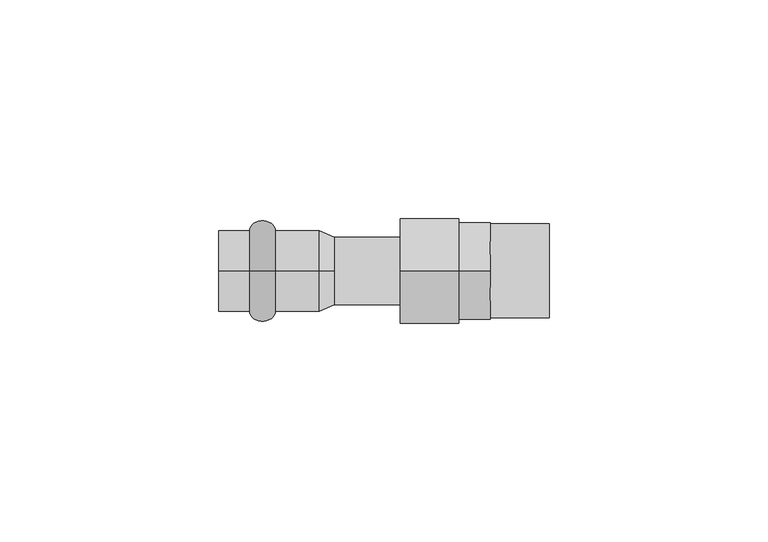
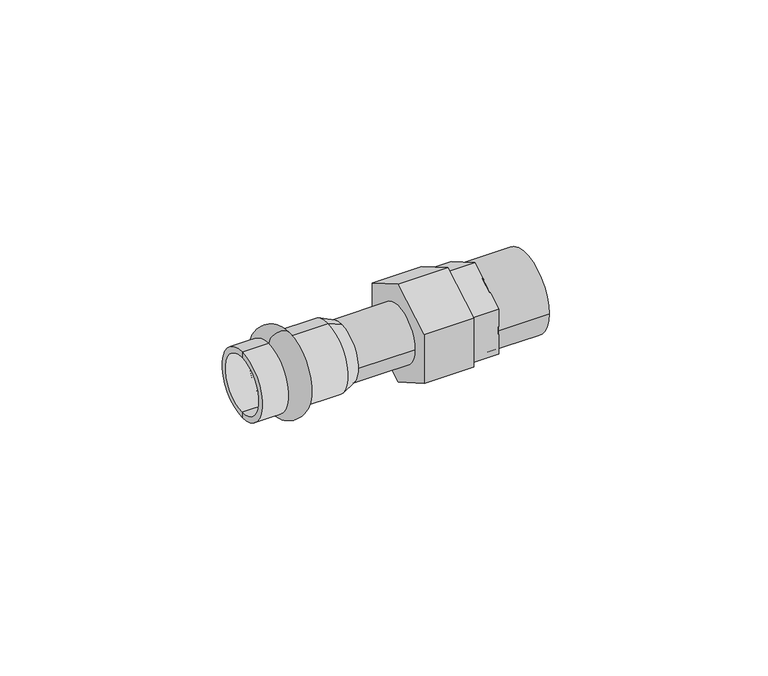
"""IFC4 building model written with IfcOpenShell, lengths in millimetres: pipe fitting geometry, РЕХАУ_Пресс Муфта с накидной гайкой и ниппелем НР : ЗАГРУЗИТЕ ТИПОРАЗМЕРЫ ЧЕРЕЗ ВКЛАДКУ «ВСТАВИТЬ» → ЗАГРУЗИТЬ СЕМЕЙСТВО."""

from ifc_helpers import new_model, si_unit, point, frame, origin, origin_2d, place, context, project, spatial, polyline, circle_curve, ellipse_curve, trimmed, segment, composite_curve, outline, extrude, source, transform, mapped, element, save
from ifc_brep_helpers import plane_surface, cylinder_surface, revolved_surface, advanced_brep


def pipe_fitting_a0121306(model_context):
    return source(origin(), model_context, "Body", "SolidModel", [
        advanced_brep(
        [(-15.9, 0.0, 9.25), (-15.9, 0.0, -9.25), (-10.0, 0.0, -9.25), (-10.0, 0.0, 9.25)],
        [
            (0, 1, circle_curve(frame((-15.9, 0.0, 0.0), z_axis=(-1.0, 0.0, 0.0), x_axis=(0.0, 0.0, -1.0)), 9.25)),
            (1, 2),
            (2, 3, circle_curve(frame((-10.0, 0.0, 0.0), z_axis=(1.0, 0.0, 0.0), x_axis=(0.0, 0.0, -1.0)), 9.25)),
            (3, 0),
            (1, 0, circle_curve(frame((-15.9, 0.0, 0.0), z_axis=(-1.0, 0.0, 0.0), x_axis=(0.0, 0.0, -1.0)), 9.25)),
            (3, 2, circle_curve(frame((-10.0, 0.0, 0.0), z_axis=(1.0, 0.0, 0.0), x_axis=(0.0, 0.0, -1.0)), 9.25)),
            (2, 1, ellipse_curve(frame((-12.95, 0.0, -9.25), z_axis=(0.0, 1.0, 0.0), x_axis=(-1.0, 0.0, 0.0)), 2.95, 2.3)),
            (0, 3, ellipse_curve(frame((-12.95, 0.0, 9.25), z_axis=(0.0, 1.0, 0.0), x_axis=(-1.0, 0.0, 0.0)), 2.95, 2.3)),
        ],
        [
            revolved_surface(polyline([(-10.0, 0.0, -9.25), (-15.899999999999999, 0.0, -9.25)]), (3.0, 0.0, 0.0), (1.0, 0.0, 0.0)),
            revolved_surface(trimmed(ellipse_curve(frame((-12.95, 0.0, -9.25), z_axis=(0.0, -1.0, 0.0), x_axis=(-1.0, 0.0, 0.0)), 2.95, 2.3), [point((-15.9, 0.0, -9.25))], [point((-10.0, 0.0, -9.25))], True, "CARTESIAN"), (3.0, 0.0, 0.0), (1.0, 0.0, 0.0)),
        ],
        [
            (0, [[1, 2, 3, 4]]),
            (0, [[5, -4, 6, -2]]),
            (1, [[-3, 7, -1, 8]]),
            (1, [[-6, -8, -5, -7]]),
        ],
    ),
        advanced_brep(
        [(3.5337785, 0.0, 7.75), (3.5337785, 0.0, -7.75), (0.0, 0.0, -9.25), (0.0, 0.0, 9.25), (-23.0, 0.0, 7.75), (-23.0, 0.0, -7.75), (-23.0, 0.0, 9.25), (-23.0, 0.0, -9.25)],
        [
            (0, 1, circle_curve(frame((3.5337785, 0.0, 0.0), z_axis=(-1.0, 0.0, 0.0), x_axis=(0.0, 0.0, -1.0)), 7.75)),
            (1, 2),
            (2, 3, circle_curve(frame((0.0, 0.0, 0.0), z_axis=(1.0, 0.0, 0.0), x_axis=(0.0, 0.0, -1.0)), 9.25)),
            (3, 0),
            (1, 0, circle_curve(frame((3.5337785, 0.0, 0.0), z_axis=(-1.0, 0.0, 0.0), x_axis=(0.0, 0.0, -1.0)), 7.75)),
            (3, 2, circle_curve(frame((0.0, 0.0, 0.0), z_axis=(1.0, 0.0, 0.0), x_axis=(0.0, 0.0, -1.0)), 9.25)),
            (4, 5, circle_curve(frame((-23.0, 0.0, 0.0), z_axis=(-1.0, 0.0, 0.0), x_axis=(0.0, 0.0, -1.0)), 7.75)),
            (5, 1),
            (0, 4),
            (5, 4, circle_curve(frame((-23.0, 0.0, 0.0), z_axis=(-1.0, 0.0, 0.0), x_axis=(0.0, 0.0, -1.0)), 7.75)),
            (6, 7, circle_curve(frame((-23.0, 0.0, 0.0), z_axis=(-1.0, 0.0, 0.0), x_axis=(0.0, 0.0, -1.0)), 9.25)),
            (7, 5),
            (4, 6),
            (7, 6, circle_curve(frame((-23.0, 0.0, 0.0), z_axis=(-1.0, 0.0, 0.0), x_axis=(0.0, 0.0, -1.0)), 9.25)),
            (2, 7),
            (6, 3),
        ],
        [
            revolved_surface(polyline([(0.0, 0.0, -9.25), (3.5337785, 0.0, -7.75)]), (3.0, 0.0, 0.0), (1.0, 0.0, 0.0)),
            revolved_surface(polyline([(3.5337785, 0.0, -7.75), (-23.0, 0.0, -7.75)]), (3.0, 0.0, 0.0), (1.0, 0.0, 0.0)),
            plane_surface(frame((-23.0, 0.0, 0.0), z_axis=(-1.0, 0.0, 0.0), x_axis=(0.0, 0.0, -1.0))),
            cylinder_surface(frame((3.0, 0.0, 0.0), z_axis=(1.0, 0.0, 0.0), x_axis=(0.0, 0.0, -1.0)), 9.25),
        ],
        [
            (0, [[1, 2, 3, 4]]),
            (0, [[5, -4, 6, -2]]),
            (1, [[7, 8, -1, 9]]),
            (1, [[10, -9, -5, -8]]),
            (2, [[11, 12, -7, 13]]),
            (2, [[14, -13, -10, -12]]),
            (3, [[-3, 15, -11, 16]]),
            (3, [[-6, -16, -14, -15]]),
        ],
    ),
        extrude(outline(composite_curve([segment(trimmed(circle_curve(origin_2d(), 10.75), [point((-10.75, 0.0))], [point((10.75, 0.0))], False, "CARTESIAN"), True, "CONTINUOUS"), segment(trimmed(circle_curve(origin_2d(), 10.75), [point((10.75, 0.0))], [point((-10.75, 0.0))], False, "CARTESIAN"), True, "CONTINUOUS")], self_intersect=False)), frame((39.1337785, 0.0, 0.0), z_axis=(1.0, 0.0, 0.0), x_axis=(0.0, 1.0, 0.0)), (0.0, 0.0, 1.0), 13.6),
        extrude(outline(polyline([(-11.0, 6.350853), (0.0, 12.7017059), (11.0, 6.350853), (11.0, -6.350853), (0.0, -12.7017059), (-11.0, -6.350853), (-11.0, 6.350853)]), holes=[polyline([(0.0, -1.1547005), (1.0, -0.5773503), (1.0, 0.5773503), (0.0, 1.1547005), (-1.0, 0.5773503), (-1.0, -0.5773503), (0.0, -1.1547005)])]), frame((31.9337785, 0.0, 0.0), z_axis=(1.0, 0.0, 0.0), x_axis=(0.0, 1.0, 0.0)), (0.0, 0.0, 1.0), 7.2),
        extrude(outline(composite_curve([segment(trimmed(circle_curve(origin_2d(), 7.75), [point((-7.75, 0.0))], [point((7.75, 0.0))], False, "CARTESIAN"), True, "CONTINUOUS"), segment(trimmed(circle_curve(origin_2d(), 7.75), [point((7.75, 0.0))], [point((-7.75, 0.0))], False, "CARTESIAN"), True, "CONTINUOUS")], self_intersect=False)), frame((3.5337785, 0.0, 0.0), z_axis=(1.0, 0.0, 0.0), x_axis=(0.0, 1.0, 0.0)), (0.0, 0.0, 1.0), 15.1),
        advanced_brep(
        [(18.6337785, 0.0, -2.3094011), (18.6337785, -2.0, -1.1547005), (24.6337785, -2.0, -1.1547005), (24.6337785, 0.0, -2.3094011), (31.9337785, -12.0, -6.9282032), (18.6337785, -12.0, -6.9282032), (18.6337785, 0.0, -13.8564065), (31.9337785, 0.0, -13.8564065), (18.6337785, 2.0, -1.1547005), (24.6337785, 2.0, -1.1547005), (18.6337785, 12.0, -6.9282032), (31.9337785, 12.0, -6.9282032), (18.6337785, 0.0, 2.3094011), (18.6337785, 2.0, 1.1547005), (24.6337785, 2.0, 1.1547005), (24.6337785, 0.0, 2.3094011), (31.9337785, 12.0, 6.9282032), (18.6337785, 12.0, 6.9282032), (18.6337785, 0.0, 13.8564065), (31.9337785, 0.0, 13.8564065), (18.6337785, -2.0, 1.1547005), (24.6337785, -2.0, 1.1547005), (18.6337785, -12.0, 6.9282032), (31.9337785, -12.0, 6.9282032), (31.9337785, -10.75, 0.0), (31.9337785, 10.75, 0.0), (24.6337785, -10.75, 0.0), (24.6337785, 10.75, 0.0)],
        [
            (0, 1),
            (1, 2),
            (2, 3),
            (3, 0),
            (4, 5),
            (5, 6),
            (6, 7),
            (7, 4),
            (8, 0),
            (3, 9),
            (9, 8),
            (6, 10),
            (10, 11),
            (11, 7),
            (12, 13),
            (13, 14),
            (14, 15),
            (15, 12),
            (16, 17),
            (17, 18),
            (18, 19),
            (19, 16),
            (20, 12),
            (15, 21),
            (21, 20),
            (18, 22),
            (22, 23),
            (23, 19),
            (13, 8),
            (9, 14),
            (10, 17),
            (16, 11),
            (23, 4),
            (24, 25, circle_curve(frame((31.9337785, 0.0, 0.0), z_axis=(-1.0, 0.0, 0.0), x_axis=(0.0, 1.0, 0.0)), 10.75)),
            (25, 24, circle_curve(frame((31.9337785, 0.0, 0.0), z_axis=(-1.0, 0.0, 0.0), x_axis=(0.0, 1.0, 0.0)), 10.75)),
            (1, 20),
            (21, 2),
            (5, 22),
            (26, 27, circle_curve(frame((24.6337785, 0.0, 0.0), z_axis=(1.0, 0.0, 0.0), x_axis=(0.0, 1.0, 0.0)), 10.75)),
            (27, 26, circle_curve(frame((24.6337785, 0.0, 0.0), z_axis=(1.0, 0.0, 0.0), x_axis=(0.0, 1.0, 0.0)), 10.75)),
            (27, 25),
            (24, 26),
        ],
        [
            plane_surface(frame((31.9337785, -2.0, -1.1547005), z_axis=(0.0, 0.500000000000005, 0.8660254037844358), x_axis=(0.0, 0.8660254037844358, -0.500000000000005))),
            plane_surface(frame((18.6337785, -12.0, -6.9282032), z_axis=(0.0, -0.5000000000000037, -0.8660254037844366), x_axis=(0.0, 0.8660254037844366, -0.5000000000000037))),
            plane_surface(frame((31.9337785, 0.0, -2.3094011), z_axis=(0.0, -0.49999999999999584, 0.866025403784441), x_axis=(0.0, 0.866025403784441, 0.49999999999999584))),
            plane_surface(frame((18.6337785, 0.0, -13.8564065), z_axis=(0.0, 0.49999999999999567, -0.8660254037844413), x_axis=(0.0, 0.8660254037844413, 0.49999999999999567))),
            plane_surface(frame((31.9337785, 2.0, 1.1547005), z_axis=(0.0, -0.5000000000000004, -0.8660254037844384), x_axis=(0.0, -0.8660254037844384, 0.5000000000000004))),
            plane_surface(frame((18.6337785, 12.0, 6.9282032), z_axis=(0.0, 0.500000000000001, 0.8660254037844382), x_axis=(0.0, -0.8660254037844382, 0.500000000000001))),
            plane_surface(frame((31.9337785, 0.0, 2.3094011), z_axis=(0.0, 0.4999999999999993, -0.8660254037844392), x_axis=(0.0, -0.8660254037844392, -0.4999999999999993))),
            plane_surface(frame((18.6337785, 0.0, 13.8564065), z_axis=(0.0, -0.4999999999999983, 0.8660254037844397), x_axis=(0.0, -0.8660254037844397, -0.4999999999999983))),
            plane_surface(frame((31.9337785, 2.0, -1.1547005), z_axis=(0.0, -1.0, 0.0), x_axis=(0.0, 0.0, 1.0))),
            plane_surface(frame((18.6337785, 12.0, -6.9282032), z_axis=(0.0, 1.0, 0.0), x_axis=(0.0, 0.0, 1.0))),
            plane_surface(frame((31.9337785, -12.0, 6.9282032), z_axis=(1.0, 0.0, 0.0), x_axis=(0.0, 0.0, -1.0))),
            plane_surface(frame((31.9337785, -2.0, 1.1547005), z_axis=(0.0, 1.0, 0.0), x_axis=(0.0, 0.0, -1.0))),
            plane_surface(frame((18.6337785, -2.0, 1.1547005), z_axis=(-1.0, 0.0, 0.0), x_axis=(0.0, 0.0, -1.0))),
            plane_surface(frame((18.6337785, -12.0, 6.9282032), z_axis=(0.0, -1.0, 0.0), x_axis=(0.0, 0.0, -1.0))),
            plane_surface(frame((24.6337785, 10.75, 0.0), z_axis=(1.0, 0.0, 0.0), x_axis=(0.0, 0.0, -1.0))),
            revolved_surface(polyline([(31.9337785, 10.75, 0.0), (24.6337785, 10.75, 0.0)]), (24.6337785, 0.0, 0.0), (1.0, 0.0, 0.0)),
        ],
        [
            (0, [[1, 2, 3, 4]]),
            (1, [[5, 6, 7, 8]]),
            (2, [[9, -4, 10, 11]]),
            (3, [[-7, 12, 13, 14]]),
            (4, [[15, 16, 17, 18]]),
            (5, [[19, 20, 21, 22]]),
            (6, [[23, -18, 24, 25]]),
            (7, [[-21, 26, 27, 28]]),
            (8, [[29, -11, 30, -16]]),
            (9, [[-13, 31, -19, 32]]),
            (10, [[-8, -14, -32, -22, -28, 33], [34, 35]]),
            (11, [[36, -25, 37, -2]]),
            (12, [[-6, 38, -26, -20, -31, -12], [-1, -9, -29, -15, -23, -36]]),
            (13, [[-5, -33, -27, -38]]),
            (14, [[39, 40], [-3, -37, -24, -17, -30, -10]]),
            (15, [[-40, 41, -34, 42]]),
            (15, [[-39, -42, -35, -41]]),
        ],
    ),
    ])


if __name__ == "__main__":
    model = new_model("IFC4")
    model_context = context("Model", 3, world=origin())
    ifc_project = project(units=[si_unit("LENGTHUNIT", "METRE", prefix="MILLI")], contexts=[model_context])
    site = spatial("IfcSite", under=ifc_project)
    building = spatial("IfcBuilding", under=site)
    placement = place(None, origin())
    pipe_fitting_shape = pipe_fitting_a0121306(model_context)
    element("IfcPipeFitting", 1, ObjectType="РЕХАУ_Пресс Муфта с накидной гайкой и ниппелем НР : ЗАГРУЗИТЕ ТИПОРАЗМЕРЫ ЧЕРЕЗ ВКЛАДКУ «ВСТАВИТЬ» → ЗАГРУЗИТЬ СЕМЕЙСТВО", at=placement, inside=building, context=model_context, shape_type="MappedRepresentation", body=[
        mapped(pipe_fitting_shape, transform((0.0, 0.0, 0.0), x_axis=(1.0, 0.0, 0.0), y_axis=(0.0, 1.0, 0.0), z_axis=(0.0, 0.0, 1.0))),
    ])
    save(model, "model.ifc")
